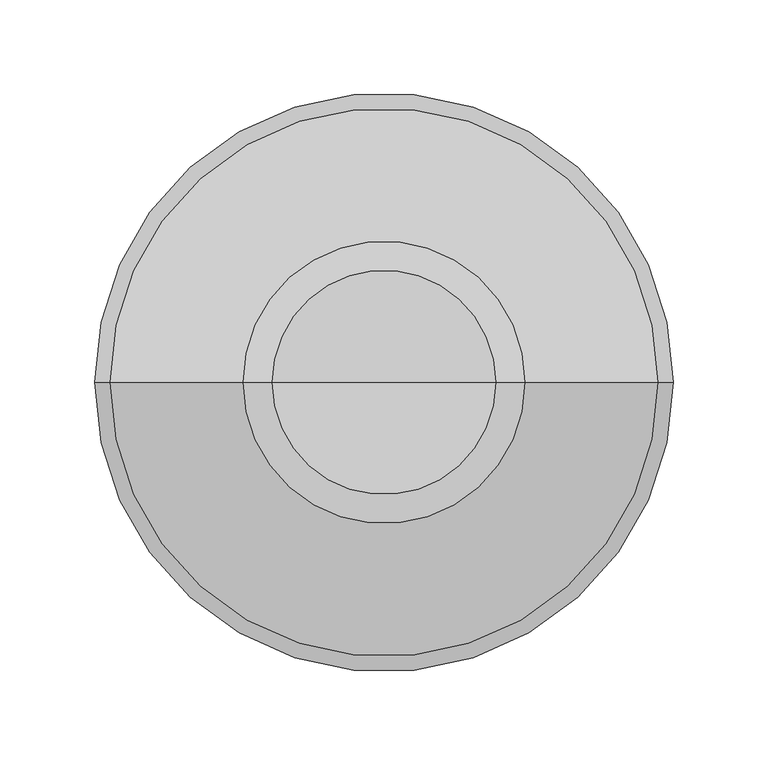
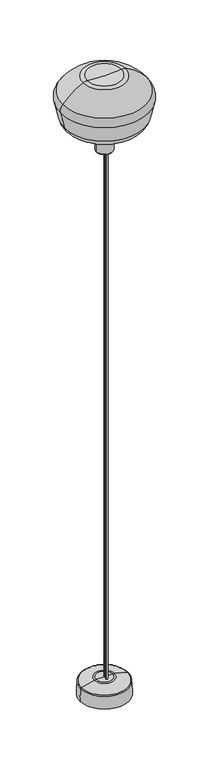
"""IFC4 building model written with IfcOpenShell, lengths in millimetres: light fixture geometry, RBW-Pomme-Pendant : PM-S-MT."""

from ifc_helpers import new_model, si_unit, point, frame, frame_2d, origin, place, context, project, spatial, polyline, circle_curve, ellipse_curve, trimmed, segment, composite_curve, outline, extrude, source, transform, mapped, element, save
from ifc_brep_helpers import plane_surface, cylinder_surface, revolved_surface, advanced_brep


def light_fixture_ddd79030(model_context):
    return source(origin(), model_context, "Body", "SolidModel", [
        advanced_brep(
        [(-98.4263953, 3.5438286, 2075.1788107), (98.4263953, 3.5438286, 2075.1788107), (62.0, 3.5438286, 2066.4350553), (-62.0, 3.5438286, 2066.4350553), (-115.70245, 3.5438286, 2081.452321), (115.70245, 3.5438286, 2081.452321), (-137.8181958, 3.5438286, 2106.3227419), (137.8181958, 3.5438286, 2106.3227419), (-151.7586421, 3.5438286, 2165.5390221), (151.7586421, 3.5438286, 2165.5390221), (-144.804276, 3.5438286, 2195.1330953), (144.804276, 3.5438286, 2195.1330953), (-74.5342201, 3.5438286, 2249.4664169), (74.5342201, 3.5438286, 2249.4664169), (0.0, 3.5438286, 2066.4350553), (-59.181384, 3.5438286, 2252.2160748), (59.181384, 3.5438286, 2252.2160748), (0.0, 3.5438286, 2249.5320628)],
        [
            (0, 1, circle_curve(frame((0.0, 3.5438286, 2075.1788107), z_axis=(0.0, 0.0, -1.0), x_axis=(1.0, 0.0, 0.0)), 98.4263953)),
            (1, 2, circle_curve(frame((41.6008633, 3.5438286, 2231.6655221), z_axis=(0.0, 1.0, 0.0), x_axis=(1.0, 0.0, 0.0)), 166.4849301)),
            (2, 3, circle_curve(frame((0.0, 3.5438286, 2066.4350553), z_axis=(0.0, 0.0, 1.0), x_axis=(1.0, 0.0, 0.0)), 62.0)),
            (3, 0, circle_curve(frame((-41.6008633, 3.5438286, 2231.6655221), z_axis=(0.0, 1.0, 0.0), x_axis=(-1.0, 0.0, 0.0)), 166.4849301)),
            (1, 0, circle_curve(frame((0.0, 3.5438286, 2075.1788107), z_axis=(0.0, 0.0, -1.0), x_axis=(1.0, 0.0, 0.0)), 98.4263953)),
            (3, 2, circle_curve(frame((0.0, 3.5438286, 2066.4350553), z_axis=(0.0, 0.0, 1.0), x_axis=(1.0, 0.0, 0.0)), 62.0)),
            (4, 5, circle_curve(frame((0.0, 3.5438286, 2081.452321), z_axis=(0.0, 0.0, -1.0), x_axis=(1.0, 0.0, 0.0)), 115.70245)),
            (5, 1),
            (0, 4),
            (5, 4, circle_curve(frame((0.0, 3.5438286, 2081.452321), z_axis=(0.0, 0.0, -1.0), x_axis=(1.0, 0.0, 0.0)), 115.70245)),
            (6, 7, circle_curve(frame((0.0, 3.5438286, 2106.3227419), z_axis=(0.0, 0.0, -1.0), x_axis=(1.0, 0.0, 0.0)), 137.8181958)),
            (7, 5, circle_curve(frame((103.7595947, 3.5438286, 2114.3406737), z_axis=(0.0, 1.0, 0.0), x_axis=(1.0, 0.0, 0.0)), 34.989649)),
            (4, 6, circle_curve(frame((-103.7595947, 3.5438286, 2114.3406737), z_axis=(0.0, 1.0, 0.0), x_axis=(-1.0, 0.0, 0.0)), 34.989649)),
            (7, 6, circle_curve(frame((0.0, 3.5438286, 2106.3227419), z_axis=(0.0, 0.0, -1.0), x_axis=(1.0, 0.0, 0.0)), 137.8181958)),
            (8, 9, circle_curve(frame((0.0, 3.5438286, 2165.5390221), z_axis=(0.0, 0.0, -1.0), x_axis=(1.0, 0.0, 0.0)), 151.7586421)),
            (9, 7),
            (6, 8),
            (9, 8, circle_curve(frame((0.0, 3.5438286, 2165.5390221), z_axis=(0.0, 0.0, -1.0), x_axis=(1.0, 0.0, 0.0)), 151.7586421)),
            (10, 11, circle_curve(frame((0.0, 3.5438286, 2195.1330953), z_axis=(0.0, 0.0, -1.0), x_axis=(1.0, 0.0, 0.0)), 144.804276)),
            (11, 9, circle_curve(frame((118.565842, 3.5438286, 2173.3531307), z_axis=(0.0, 1.0, 0.0), x_axis=(1.0, 0.0, 0.0)), 34.1001799)),
            (8, 10, circle_curve(frame((-118.565842, 3.5438286, 2173.3531307), z_axis=(0.0, 1.0, 0.0), x_axis=(-1.0, 0.0, 0.0)), 34.1001799)),
            (11, 10, circle_curve(frame((0.0, 3.5438286, 2195.1330953), z_axis=(0.0, 0.0, -1.0), x_axis=(1.0, 0.0, 0.0)), 144.804276)),
            (12, 13, circle_curve(frame((0.0, 3.5438286, 2249.4664169), z_axis=(0.0, 0.0, -1.0), x_axis=(1.0, 0.0, 0.0)), 74.5342201)),
            (13, 11, circle_curve(frame((-11.9351997, 3.5438286, 2065.0269983), z_axis=(0.0, 1.0, 0.0), x_axis=(1.0, 0.0, 0.0)), 203.7028711)),
            (10, 12, circle_curve(frame((11.9351997, 3.5438286, 2065.0269983), z_axis=(0.0, 1.0, 0.0), x_axis=(-1.0, 0.0, 0.0)), 203.7028711)),
            (13, 12, circle_curve(frame((0.0, 3.5438286, 2249.4664169), z_axis=(0.0, 0.0, -1.0), x_axis=(1.0, 0.0, 0.0)), 74.5342201)),
            (2, 14),
            (14, 3),
            (15, 16, circle_curve(frame((0.0, 3.5438286, 2252.2160748), z_axis=(0.0, 0.0, -1.0), x_axis=(1.0, 0.0, 0.0)), 59.181384)),
            (16, 13, circle_curve(frame((61.7140771, 3.5438286, 2222.1210302), z_axis=(0.0, 1.0, 0.0), x_axis=(1.0, 0.0, 0.0)), 30.2014278)),
            (12, 15, circle_curve(frame((-61.7140771, 3.5438286, 2222.1210302), z_axis=(0.0, 1.0, 0.0), x_axis=(-1.0, 0.0, 0.0)), 30.2014278)),
            (16, 15, circle_curve(frame((0.0, 3.5438286, 2252.2160748), z_axis=(0.0, 0.0, -1.0), x_axis=(1.0, 0.0, 0.0)), 59.181384)),
            (17, 16, circle_curve(frame((-5.1253604, 3.5438286, 3016.3490517), z_axis=(0.0, -1.0, 0.0), x_axis=(1.0, 0.0, 0.0)), 766.8341175)),
            (15, 17, circle_curve(frame((5.1253604, 3.5438286, 3016.3490517), z_axis=(0.0, -1.0, 0.0), x_axis=(-1.0, 0.0, 0.0)), 766.8341175)),
        ],
        [
            revolved_surface(trimmed(ellipse_curve(frame((41.6008633, 3.5438286, 2231.6655221), z_axis=(0.0, -1.0, 0.0), x_axis=(1.0, 0.0, 0.0)), 166.4849301, 166.4849301), [point((62.0, 3.5438286, 2066.4350553))], [point((98.4263953, 3.5438286, 2075.1788107))], True, "CARTESIAN"), (0.0, 3.5438286, 2324.1), (0.0, 0.0, 1.0)),
            revolved_surface(polyline([(98.4263953, 3.5438286, 2075.1788107), (115.70245, 3.5438286, 2081.452321)]), (0.0, 3.5438286, 2324.1), (0.0, 0.0, 1.0)),
            revolved_surface(trimmed(ellipse_curve(frame((103.7595947, 3.5438286, 2114.3406737), z_axis=(0.0, -1.0, 0.0), x_axis=(1.0, 0.0, 0.0)), 34.989649, 34.989649), [point((115.70245, 3.5438286, 2081.452321))], [point((137.8181958, 3.5438286, 2106.3227419))], True, "CARTESIAN"), (0.0, 3.5438286, 2324.1), (0.0, 0.0, 1.0)),
            revolved_surface(polyline([(137.8181958, 3.5438286, 2106.3227419), (151.7586421, 3.5438286, 2165.5390221)]), (0.0, 3.5438286, 2324.1), (0.0, 0.0, 1.0)),
            revolved_surface(trimmed(ellipse_curve(frame((118.565842, 3.5438286, 2173.3531307), z_axis=(0.0, -1.0, 0.0), x_axis=(1.0, 0.0, 0.0)), 34.1001799, 34.1001799), [point((151.7586421, 3.5438286, 2165.5390221))], [point((144.804276, 3.5438286, 2195.1330953))], True, "CARTESIAN"), (0.0, 3.5438286, 2324.1), (0.0, 0.0, 1.0)),
            revolved_surface(trimmed(ellipse_curve(frame((-11.9351997, 3.5438286, 2065.0269983), z_axis=(0.0, -1.0, 0.0), x_axis=(1.0, 0.0, 0.0)), 203.7028711, 203.7028711), [point((144.804276, 3.5438286, 2195.1330953))], [point((74.5342201, 3.5438286, 2249.4664169))], True, "CARTESIAN"), (0.0, 3.5438286, 2324.1), (0.0, 0.0, 1.0)),
            plane_surface(frame((0.0, 3.5438286, 2066.4350553), z_axis=(0.0, 0.0, -1.0), x_axis=(1.0, 0.0, 0.0))),
            revolved_surface(trimmed(ellipse_curve(frame((61.7140771, 3.5438286, 2222.1210302), z_axis=(0.0, -1.0, 0.0), x_axis=(1.0, 0.0, 0.0)), 30.2014278, 30.2014278), [point((74.5342201, 3.5438286, 2249.4664169))], [point((59.181384, 3.5438286, 2252.2160748))], True, "CARTESIAN"), (0.0, 3.5438286, 2324.1), (0.0, 0.0, 1.0)),
            revolved_surface(trimmed(ellipse_curve(frame((-5.1253604, 3.5438286, 3016.3490517), z_axis=(0.0, 1.0, 0.0), x_axis=(1.0, 0.0, 0.0)), 766.8341175, 766.8341175), [point((59.181384, 3.5438286, 2252.2160748))], [point((0.0, 3.5438286, 2249.5320628))], True, "CARTESIAN"), (0.0, 3.5438286, 2324.1), (0.0, 0.0, 1.0)),
        ],
        [
            (0, [[1, 2, 3, 4]]),
            (0, [[5, -4, 6, -2]]),
            (1, [[7, 8, -1, 9]]),
            (1, [[10, -9, -5, -8]]),
            (2, [[11, 12, -7, 13]]),
            (2, [[14, -13, -10, -12]]),
            (3, [[15, 16, -11, 17]]),
            (3, [[18, -17, -14, -16]]),
            (4, [[19, 20, -15, 21]]),
            (4, [[22, -21, -18, -20]]),
            (5, [[23, 24, -19, 25]]),
            (5, [[26, -25, -22, -24]]),
            (6, [[-3, 27, 28]]),
            (6, [[-6, -28, -27]]),
            (7, [[29, 30, -23, 31]]),
            (7, [[32, -31, -26, -30]]),
            (8, [[33, -29, 34]]),
            (8, [[-34, -32, -33]]),
        ],
    ),
        advanced_brep(
        [(-25.999997, 3.5438286, 1981.2), (25.999997, 3.5438286, 1981.2), (25.999997, 3.5438286, 2045.4404656), (-25.999997, 3.5438286, 2045.4404656), (-27.4642055, 3.5438286, 1981.2), (27.4642055, 3.5438286, 1981.2), (-28.4740938, 3.5438286, 1982.2098882), (28.4740938, 3.5438286, 1982.2098882), (-28.4740938, 3.5438286, 2027.9280146), (28.4740938, 3.5438286, 2027.9280146), (-43.2136116, 3.5438286, 2049.3741461), (43.2136116, 3.5438286, 2049.3741461), (-89.2984665, 3.5438286, 2067.0644644), (89.2984665, 3.5438286, 2067.0644644), (-88.8511515, 3.5438286, 2069.4779602), (88.8511515, 3.5438286, 2069.4779602), (0.0, 3.5438286, 2069.4779602), (0.0, 3.5438286, 2045.4404656)],
        [
            (0, 1, circle_curve(frame((0.0, 3.5438286, 1981.2), z_axis=(0.0, 0.0, -1.0), x_axis=(1.0, 0.0, 0.0)), 25.999997)),
            (1, 2),
            (2, 3, circle_curve(frame((0.0, 3.5438286, 2045.4404656), z_axis=(0.0, 0.0, 1.0), x_axis=(1.0, 0.0, 0.0)), 25.999997)),
            (3, 0),
            (1, 0, circle_curve(frame((0.0, 3.5438286, 1981.2), z_axis=(0.0, 0.0, -1.0), x_axis=(1.0, 0.0, 0.0)), 25.999997)),
            (3, 2, circle_curve(frame((0.0, 3.5438286, 2045.4404656), z_axis=(0.0, 0.0, 1.0), x_axis=(1.0, 0.0, 0.0)), 25.999997)),
            (4, 5, circle_curve(frame((0.0, 3.5438286, 1981.2), z_axis=(0.0, 0.0, -1.0), x_axis=(1.0, 0.0, 0.0)), 27.4642055)),
            (5, 1),
            (0, 4),
            (5, 4, circle_curve(frame((0.0, 3.5438286, 1981.2), z_axis=(0.0, 0.0, -1.0), x_axis=(1.0, 0.0, 0.0)), 27.4642055)),
            (6, 7, circle_curve(frame((0.0, 3.5438286, 1982.2098882), z_axis=(0.0, 0.0, -1.0), x_axis=(1.0, 0.0, 0.0)), 28.4740938)),
            (7, 5),
            (4, 6),
            (7, 6, circle_curve(frame((0.0, 3.5438286, 1982.2098882), z_axis=(0.0, 0.0, -1.0), x_axis=(1.0, 0.0, 0.0)), 28.4740938)),
            (8, 9, circle_curve(frame((0.0, 3.5438286, 2027.9280146), z_axis=(0.0, 0.0, -1.0), x_axis=(1.0, 0.0, 0.0)), 28.4740938)),
            (9, 7),
            (6, 8),
            (9, 8, circle_curve(frame((0.0, 3.5438286, 2027.9280146), z_axis=(0.0, 0.0, -1.0), x_axis=(1.0, 0.0, 0.0)), 28.4740938)),
            (10, 11, circle_curve(frame((0.0, 3.5438286, 2049.3741461), z_axis=(0.0, 0.0, -1.0), x_axis=(1.0, 0.0, 0.0)), 43.2136116)),
            (11, 9, circle_curve(frame((51.4460102, 3.5438286, 2027.9280146), z_axis=(0.0, -1.0, 0.0), x_axis=(1.0, 0.0, 0.0)), 22.9719164)),
            (8, 10, circle_curve(frame((-51.4460102, 3.5438286, 2027.9280146), z_axis=(0.0, -1.0, 0.0), x_axis=(-1.0, 0.0, 0.0)), 22.9719164)),
            (11, 10, circle_curve(frame((0.0, 3.5438286, 2049.3741461), z_axis=(0.0, 0.0, -1.0), x_axis=(1.0, 0.0, 0.0)), 43.2136116)),
            (12, 13, circle_curve(frame((0.0, 3.5438286, 2067.0644644), z_axis=(0.0, 0.0, -1.0), x_axis=(1.0, 0.0, 0.0)), 89.2984665)),
            (13, 11),
            (10, 12),
            (13, 12, circle_curve(frame((0.0, 3.5438286, 2067.0644644), z_axis=(0.0, 0.0, -1.0), x_axis=(1.0, 0.0, 0.0)), 89.2984665)),
            (14, 15, circle_curve(frame((0.0, 3.5438286, 2069.4779602), z_axis=(0.0, 0.0, -1.0), x_axis=(1.0, 0.0, 0.0)), 88.8511515)),
            (15, 13, circle_curve(frame((88.8511515, 3.5438286, 2068.2297598), z_axis=(0.0, 1.0, 0.0), x_axis=(1.0, 0.0, 0.0)), 1.2482003)),
            (12, 14, circle_curve(frame((-88.8511515, 3.5438286, 2068.2297598), z_axis=(0.0, 1.0, 0.0), x_axis=(-1.0, 0.0, 0.0)), 1.2482003)),
            (15, 14, circle_curve(frame((0.0, 3.5438286, 2069.4779602), z_axis=(0.0, 0.0, -1.0), x_axis=(1.0, 0.0, 0.0)), 88.8511515)),
            (16, 15),
            (14, 16),
            (2, 17),
            (17, 3),
        ],
        [
            revolved_surface(polyline([(25.999997, 3.5438286, 2045.4404656), (25.999997, 3.5438286, 1981.2)]), (0.0, 3.5438286, 2292.35), (0.0, 0.0, 1.0)),
            plane_surface(frame((0.0, 3.5438286, 1981.2), z_axis=(0.0, 0.0, -1.0), x_axis=(1.0, 0.0, 0.0))),
            revolved_surface(polyline([(27.4642055, 3.5438286, 1981.2), (28.4740938, 3.5438286, 1982.2098882)]), (0.0, 3.5438286, 2292.35), (0.0, 0.0, 1.0)),
            cylinder_surface(frame((0.0, 3.5438286, 2292.35), z_axis=(0.0, 0.0, 1.0), x_axis=(1.0, 0.0, 0.0)), 28.4740938),
            revolved_surface(trimmed(ellipse_curve(frame((51.4460102, 3.5438286, 2027.9280146), z_axis=(0.0, 1.0, 0.0), x_axis=(1.0, 0.0, 0.0)), 22.9719164, 22.9719164), [point((28.4740938, 3.5438286, 2027.9280146))], [point((43.2136116, 3.5438286, 2049.3741461))], True, "CARTESIAN"), (0.0, 3.5438286, 2292.35), (0.0, 0.0, 1.0)),
            revolved_surface(polyline([(43.2136116, 3.5438286, 2049.3741461), (89.2984665, 3.5438286, 2067.0644644)]), (0.0, 3.5438286, 2292.35), (0.0, 0.0, 1.0)),
            revolved_surface(trimmed(ellipse_curve(frame((88.8511515, 3.5438286, 2068.2297598), z_axis=(0.0, -1.0, 0.0), x_axis=(1.0, 0.0, 0.0)), 1.2482003, 1.2482003), [point((89.2984665, 3.5438286, 2067.0644644))], [point((88.8511515, 3.5438286, 2069.4779602))], True, "CARTESIAN"), (0.0, 3.5438286, 2292.35), (0.0, 0.0, 1.0)),
            plane_surface(frame((0.0, 3.5438286, 2069.4779602), z_axis=(0.0, 0.0, 1.0), x_axis=(1.0, 0.0, 0.0))),
            plane_surface(frame((0.0, 3.5438286, 2045.4404656), z_axis=(0.0, 0.0, -1.0), x_axis=(1.0, 0.0, 0.0))),
        ],
        [
            (0, [[1, 2, 3, 4]]),
            (0, [[5, -4, 6, -2]]),
            (1, [[7, 8, -1, 9]]),
            (1, [[10, -9, -5, -8]]),
            (2, [[11, 12, -7, 13]]),
            (2, [[14, -13, -10, -12]]),
            (3, [[15, 16, -11, 17]]),
            (3, [[18, -17, -14, -16]]),
            (4, [[19, 20, -15, 21]]),
            (4, [[22, -21, -18, -20]]),
            (5, [[23, 24, -19, 25]]),
            (5, [[26, -25, -22, -24]]),
            (6, [[27, 28, -23, 29]]),
            (6, [[30, -29, -26, -28]]),
            (7, [[31, -27, 32]]),
            (7, [[-32, -30, -31]]),
            (8, [[-3, 33, 34]]),
            (8, [[-6, -34, -33]]),
        ],
    ),
        advanced_brep(
        [(-1.9558002, 3.5438286, 60.1756874), (1.9558002, 3.5438286, 60.1756874), (0.0, 3.5438286, 60.1756874), (-1.9558002, 3.5438286, 63.6557075), (1.9558002, 3.5438286, 63.6557075), (0.0, 3.5438286, 63.6557075)],
        [
            (0, 1, circle_curve(frame((0.0, 3.5438286, 60.1756874), z_axis=(0.0, 0.0, -1.0), x_axis=(1.0, 0.0, 0.0)), 1.9558002)),
            (1, 2),
            (2, 0),
            (1, 0, circle_curve(frame((0.0, 3.5438286, 60.1756874), z_axis=(0.0, 0.0, -1.0), x_axis=(1.0, 0.0, 0.0)), 1.9558002)),
            (3, 4, circle_curve(frame((0.0, 3.5438286, 63.6557075), z_axis=(0.0, 0.0, -1.0), x_axis=(1.0, 0.0, 0.0)), 1.9558002)),
            (4, 1),
            (0, 3),
            (4, 3, circle_curve(frame((0.0, 3.5438286, 63.6557075), z_axis=(0.0, 0.0, -1.0), x_axis=(1.0, 0.0, 0.0)), 1.9558002)),
            (5, 4),
            (3, 5),
        ],
        [
            plane_surface(frame((0.0, 3.5438286, 60.1756874), z_axis=(0.0, 0.0, -1.0), x_axis=(1.0, 0.0, 0.0))),
            cylinder_surface(frame((0.0, 3.5438286, 54.595764), z_axis=(0.0, 0.0, 1.0), x_axis=(1.0, 0.0, 0.0)), 1.9558002),
            plane_surface(frame((0.0, 3.5438286, 63.6557075), z_axis=(0.0, 0.0, 1.0), x_axis=(1.0, 0.0, 0.0))),
        ],
        [
            (0, [[1, 2, 3]]),
            (0, [[4, -3, -2]]),
            (1, [[5, 6, -1, 7]]),
            (1, [[8, -7, -4, -6]]),
            (2, [[9, -5, 10]]),
            (2, [[-10, -8, -9]]),
        ],
    ),
        advanced_brep(
        [(-79.8801234, 3.5438286, 47.9855508), (79.8801234, 3.5438286, 47.9855508), (81.8450297, 3.5438286, 45.5746225), (-81.8450297, 3.5438286, 45.5746225), (-35.5973952, 3.5438286, 59.3750688), (35.5973952, 3.5438286, 59.3750688), (-29.2704342, 3.5438286, 60.1756874), (29.2704342, 3.5438286, 60.1756874), (0.0, 3.5438286, 60.1756874), (-84.0611662, 3.5438286, 0.0), (84.0611662, 3.5438286, 0.0), (0.0, 3.5438286, 0.0)],
        [
            (0, 1, circle_curve(frame((0.0, 3.5438286, 47.9855508), z_axis=(0.0, 0.0, -1.0), x_axis=(1.0, 0.0, 0.0)), 79.8801234)),
            (1, 2, circle_curve(frame((79.2272933, 3.5438286, 45.4473311), z_axis=(0.0, 1.0, 0.0), x_axis=(1.0, 0.0, 0.0)), 2.6208294)),
            (2, 3, circle_curve(frame((0.0, 3.5438286, 45.5746225), z_axis=(0.0, 0.0, 1.0), x_axis=(1.0, 0.0, 0.0)), 81.8450297)),
            (3, 0, circle_curve(frame((-79.2272933, 3.5438286, 45.4473311), z_axis=(0.0, 1.0, 0.0), x_axis=(-1.0, 0.0, 0.0)), 2.6208294)),
            (1, 0, circle_curve(frame((0.0, 3.5438286, 47.9855508), z_axis=(0.0, 0.0, -1.0), x_axis=(1.0, 0.0, 0.0)), 79.8801234)),
            (3, 2, circle_curve(frame((0.0, 3.5438286, 45.5746225), z_axis=(0.0, 0.0, 1.0), x_axis=(1.0, 0.0, 0.0)), 81.8450297)),
            (4, 5, circle_curve(frame((0.0, 3.5438286, 59.3750688), z_axis=(0.0, 0.0, -1.0), x_axis=(1.0, 0.0, 0.0)), 35.5973952)),
            (5, 1),
            (0, 4),
            (5, 4, circle_curve(frame((0.0, 3.5438286, 59.3750688), z_axis=(0.0, 0.0, -1.0), x_axis=(1.0, 0.0, 0.0)), 35.5973952)),
            (6, 7, circle_curve(frame((0.0, 3.5438286, 60.1756874), z_axis=(0.0, 0.0, -1.0), x_axis=(1.0, 0.0, 0.0)), 29.2704342)),
            (7, 5, circle_curve(frame((29.2704342, 3.5438286, 34.7756874), z_axis=(0.0, 1.0, 0.0), x_axis=(1.0, 0.0, 0.0)), 25.4)),
            (4, 6, circle_curve(frame((-29.2704342, 3.5438286, 34.7756874), z_axis=(0.0, 1.0, 0.0), x_axis=(-1.0, 0.0, 0.0)), 25.4)),
            (7, 6, circle_curve(frame((0.0, 3.5438286, 60.1756874), z_axis=(0.0, 0.0, -1.0), x_axis=(1.0, 0.0, 0.0)), 29.2704342)),
            (8, 7),
            (6, 8),
            (9, 10, circle_curve(frame((0.0, 3.5438286, 0.0), z_axis=(0.0, 0.0, -1.0), x_axis=(1.0, 0.0, 0.0)), 84.0611662)),
            (10, 11),
            (11, 9),
            (10, 9, circle_curve(frame((0.0, 3.5438286, 0.0), z_axis=(0.0, 0.0, -1.0), x_axis=(1.0, 0.0, 0.0)), 84.0611662)),
            (2, 10),
            (9, 3),
        ],
        [
            revolved_surface(trimmed(ellipse_curve(frame((79.2272933, 3.5438286, 45.4473311), z_axis=(0.0, -1.0, 0.0), x_axis=(1.0, 0.0, 0.0)), 2.6208294, 2.6208294), [point((81.8450297, 3.5438286, 45.5746225))], [point((79.8801234, 3.5438286, 47.9855508))], True, "CARTESIAN"), (0.0, 3.5438286, -38.1), (0.0, 0.0, 1.0)),
            revolved_surface(polyline([(79.8801234, 3.5438286, 47.9855508), (35.5973952, 3.5438286, 59.3750688)]), (0.0, 3.5438286, -38.1), (0.0, 0.0, 1.0)),
            revolved_surface(trimmed(ellipse_curve(frame((29.2704342, 3.5438286, 34.7756874), z_axis=(0.0, -1.0, 0.0), x_axis=(1.0, 0.0, 0.0)), 25.4, 25.4), [point((35.5973952, 3.5438286, 59.3750688))], [point((29.2704342, 3.5438286, 60.1756874))], True, "CARTESIAN"), (0.0, 3.5438286, -38.1), (0.0, 0.0, 1.0)),
            plane_surface(frame((0.0, 3.5438286, 60.1756874), z_axis=(0.0, 0.0, 1.0), x_axis=(1.0, 0.0, 0.0))),
            plane_surface(frame((0.0, 3.5438286, 0.0), z_axis=(0.0, 0.0, -1.0), x_axis=(1.0, 0.0, 0.0))),
            revolved_surface(polyline([(84.0611662, 3.5438286, 0.0), (81.8450297, 3.5438286, 45.5746225)]), (0.0, 3.5438286, -38.1), (0.0, 0.0, 1.0)),
        ],
        [
            (0, [[1, 2, 3, 4]]),
            (0, [[5, -4, 6, -2]]),
            (1, [[7, 8, -1, 9]]),
            (1, [[10, -9, -5, -8]]),
            (2, [[11, 12, -7, 13]]),
            (2, [[14, -13, -10, -12]]),
            (3, [[15, -11, 16]]),
            (3, [[-16, -14, -15]]),
            (4, [[17, 18, 19]]),
            (4, [[20, -19, -18]]),
            (5, [[-3, 21, -17, 22]]),
            (5, [[-6, -22, -20, -21]]),
        ],
    ),
        extrude(outline(composite_curve([segment(trimmed(circle_curve(frame_2d((0.0, -10.4593129)), 3.1077965), [point((-3.1077965, -10.4593129))], [point((3.1077965, -10.4593129))], False, "CARTESIAN"), True, "CONTINUOUS"), segment(trimmed(circle_curve(frame_2d((0.0, -10.4593129)), 3.1077965), [point((3.1077965, -10.4593129))], [point((-3.1077965, -10.4593129))], False, "CARTESIAN"), True, "CONTINUOUS")], self_intersect=False)), frame((0.0, 0.0, 60.1756874), z_axis=(0.0, 0.0, 1.0), x_axis=(1.0, 0.0, 0.0)), (0.0, 0.0, 1.0), 1989.2332569),
        extrude(outline(composite_curve([segment(trimmed(circle_curve(frame_2d((0.0, 3.5438286)), 0.782962), [point((-0.782962, 3.5438286))], [point((0.782962, 3.5438286))], False, "CARTESIAN"), True, "CONTINUOUS"), segment(trimmed(circle_curve(frame_2d((0.0, 3.5438286)), 0.782962), [point((0.782962, 3.5438286))], [point((-0.782962, 3.5438286))], False, "CARTESIAN"), True, "CONTINUOUS")], self_intersect=False)), frame((0.0, 0.0, 63.6557075), z_axis=(0.0, 0.0, 1.0), x_axis=(1.0, 0.0, 0.0)), (0.0, 0.0, 1.0), 1985.7532367),
    ])


if __name__ == "__main__":
    model = new_model("IFC4")
    model_context = context("Model", 3, world=origin())
    ifc_project = project(units=[si_unit("LENGTHUNIT", "METRE", prefix="MILLI")], contexts=[model_context])
    site = spatial("IfcSite", under=ifc_project)
    building = spatial("IfcBuilding", under=site)
    placement = place(None, origin())
    light_fixture_shape = light_fixture_ddd79030(model_context)
    element("IfcLightFixture", 1, ObjectType="RBW-Pomme-Pendant : PM-S-MT", at=placement, inside=building, context=model_context, shape_type="MappedRepresentation", body=[
        mapped(light_fixture_shape, transform((0.0, 0.0, 0.0), x_axis=(1.0, 0.0, 0.0), y_axis=(0.0, 1.0, 0.0), z_axis=(0.0, 0.0, 1.0))),
    ])
    save(model, "model.ifc")
